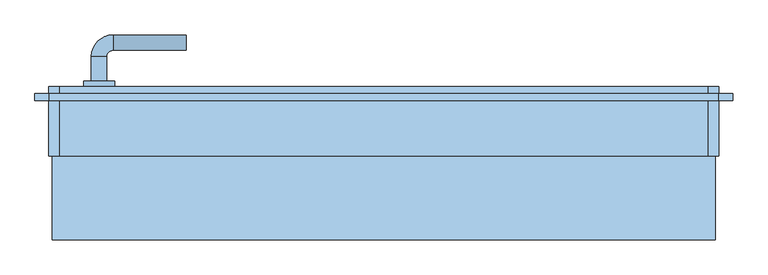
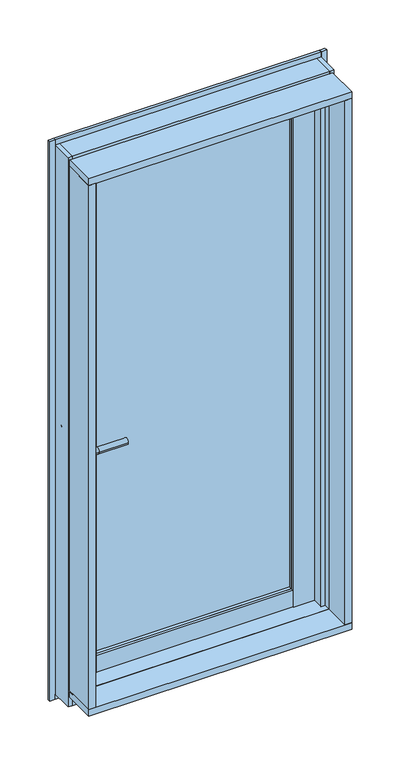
"""IFC4 building model written with IfcOpenShell, lengths in millimetres: window geometry, FNSⅡ100R_個別防火_面付枠_単窓 : 片開き框ドア."""

import ifcopenshell
import ifcopenshell.guid

model = None  # the IFC model being written
_history = None  # IfcOwnerHistory: only IFC2X3 demands one
_inside = {}  # id of a spatial element -> (the spatial element, [elements in it])
_under = {}  # id of a project, library or spatial element -> (it, [spatial elements below it])
_declared = {}  # id of a project -> (the project, [libraries it declares])
_typed = {}  # id of a type object -> (the type object, [elements of that type])
_made_of = {}  # id of a material, layer set ... -> (it, [elements and type objects made of it])


def new_model(schema):
    """Start an empty IFC model of exactly this schema.

    Asked for "IFC4X3", IfcOpenShell would pick the latest addendum, in which some entities
    have other attributes; the version numbers below select the first issue.
    IFC2X3 requires an IfcOwnerHistory on every rooted entity: one is made here for all.
    """
    global model, _history
    if schema == "IFC4X3":
        model = ifcopenshell.file(schema_version=(4, 3, 0, 0))
    else:
        model = ifcopenshell.file(schema=schema)
    _inside.clear()
    _under.clear()
    _declared.clear()
    _typed.clear()
    _made_of.clear()
    _history = None
    if model.schema == "IFC2X3":
        org = make("IfcOrganization", Name="unknown")
        user = make(
            "IfcPersonAndOrganization",
            ThePerson=make("IfcPerson", FamilyName="unknown"),
            TheOrganization=org,
        )
        app = make(
            "IfcApplication",
            ApplicationDeveloper=org,
            Version="unknown",
            ApplicationFullName="unknown",
            ApplicationIdentifier="unknown",
        )
        _history = make(
            "IfcOwnerHistory",
            OwningUser=user,
            OwningApplication=app,
            ChangeAction="ADDED",
            CreationDate=0,
        )
    return model


def make(cls, **values):
    """One entity of the class cls with the attributes given. An attribute that is None is left unset."""
    return model.create_entity(
        cls, **{name: value for name, value in values.items() if value is not None}
    )


def rooted(cls, **values):
    """An entity with a GlobalId (a new one), such as an element, a storey or a relation."""
    return make(cls, GlobalId=ifcopenshell.guid.new(), OwnerHistory=_history, **values)


def si_unit(unit_type, name, prefix=None):
    """IfcSIUnit, for example si_unit("LENGTHUNIT", "METRE", prefix="MILLI")."""
    return make("IfcSIUnit", UnitType=unit_type, Prefix=prefix, Name=name)


def assignment(units):
    """IfcUnitAssignment: the units of a project."""
    return None if units is None else make("IfcUnitAssignment", Units=units)


def point(xyz):
    """IfcCartesianPoint."""
    return None if xyz is None else make("IfcCartesianPoint", Coordinates=xyz)


def direction(xyz):
    """IfcDirection."""
    return None if xyz is None else make("IfcDirection", DirectionRatios=xyz)


def frame(location, z_axis=None, x_axis=None):
    """IfcAxis2Placement3D, a coordinate frame: its origin and axes. An axis left out is left unset."""
    return make(
        "IfcAxis2Placement3D",
        Location=point(location),
        Axis=direction(z_axis),
        RefDirection=direction(x_axis),
    )


def frame_2d(location, x_axis=None):
    """IfcAxis2Placement2D, a coordinate frame in the plane: its origin and x axis."""
    return make(
        "IfcAxis2Placement2D", Location=point(location), RefDirection=direction(x_axis)
    )


def origin():
    """The frame at (0, 0, 0) with its axes left unset."""
    return frame((0.0, 0.0, 0.0))


def place(relative_to, where):
    """IfcLocalPlacement: puts the frame where relative to a parent placement (None: the world)."""
    return make(
        "IfcLocalPlacement", PlacementRelTo=relative_to, RelativePlacement=where
    )


def context(
    kind, dimensions, precision=None, world=None, true_north=None, identifier=None
):
    """IfcGeometricRepresentationContext, for example the 3D "Model" context."""
    return make(
        "IfcGeometricRepresentationContext",
        ContextIdentifier=identifier,
        ContextType=kind,
        CoordinateSpaceDimension=dimensions,
        Precision=precision,
        WorldCoordinateSystem=world,
        TrueNorth=true_north,
    )


def project(units=None, contexts=None):
    """IfcProject with its units and contexts."""
    return rooted(
        "IfcProject",
        Name="project",
        RepresentationContexts=contexts,
        UnitsInContext=assignment(units),
    )


def spatial(cls, under=None, at=None, **own):
    """A site, building, storey or space (cls), placed at a placement, below another one or the project."""
    s = rooted(cls, ObjectPlacement=at, **own)
    if under is not None:
        _under.setdefault(under.id(), (under, []))[1].append(s)
    return s


def polyline(points):
    """IfcPolyline through the points."""
    return make("IfcPolyline", Points=[point(p) for p in points])


def circle_curve(where, radius):
    """IfcCircle in the frame where."""
    return make("IfcCircle", Position=where, Radius=radius)


def ellipse_curve(where, semi_axis1, semi_axis2):
    """IfcEllipse in the frame where."""
    return make(
        "IfcEllipse", Position=where, SemiAxis1=semi_axis1, SemiAxis2=semi_axis2
    )


def trimmed(basis, trim1, trim2, sense, master):
    """IfcTrimmedCurve: the piece of a basis curve between two trims."""
    return make(
        "IfcTrimmedCurve",
        BasisCurve=basis,
        Trim1=trim1,
        Trim2=trim2,
        SenseAgreement=sense,
        MasterRepresentation=master,
    )


def segment(curve, same_sense, transition):
    """IfcCompositeCurveSegment."""
    return make(
        "IfcCompositeCurveSegment",
        Transition=transition,
        SameSense=same_sense,
        ParentCurve=curve,
    )


def composite_curve(segments, self_intersect=None):
    """IfcCompositeCurve: segments joined end to end."""
    return make("IfcCompositeCurve", Segments=segments, SelfIntersect=self_intersect)


def outline(outer, holes=None, kind="AREA"):
    """IfcArbitraryClosedProfileDef: a profile drawn as a closed curve; with holes, ...WithVoids."""
    if holes is None:
        return make("IfcArbitraryClosedProfileDef", ProfileType=kind, OuterCurve=outer)
    return make(
        "IfcArbitraryProfileDefWithVoids",
        ProfileType=kind,
        OuterCurve=outer,
        InnerCurves=holes,
    )


def extrude(swept, where, along, depth):
    """IfcExtrudedAreaSolid: the profile swept, set in the frame where, extruded along a direction by depth."""
    return make(
        "IfcExtrudedAreaSolid",
        SweptArea=swept,
        Position=where,
        ExtrudedDirection=direction(along),
        Depth=depth,
    )


def faces_of(points, faces, orient=None, outer=None):
    """IfcFace entities. A face is a list of loops; a loop is a list of indices into points, from 0.

    orient and outer hold one flag for each loop. By default every Orientation is true, the
    first loop of a face is its IfcFaceOuterBound and the others are IfcFaceBound.
    """
    made = []
    for i, loops in enumerate(faces):
        bounds = []
        for j, loop in enumerate(loops):
            is_outer = j == 0 if outer is None else outer[i][j]
            bounds.append(
                make(
                    "IfcFaceOuterBound" if is_outer else "IfcFaceBound",
                    Bound=make("IfcPolyLoop", Polygon=[points[k] for k in loop]),
                    Orientation=True if orient is None else orient[i][j],
                )
            )
        made.append(make("IfcFace", Bounds=bounds))
    return made


def faceted_brep(points, faces, orient=None, outer=None, voids=None):
    """IfcFacetedBrep: a solid bounded by flat faces; with voids (closed shells), ...WithVoids."""
    shared = [point(p) for p in points]
    hull = make("IfcClosedShell", CfsFaces=faces_of(shared, faces, orient, outer))
    if voids is None:
        return make("IfcFacetedBrep", Outer=hull)
    return make(
        "IfcFacetedBrepWithVoids",
        Outer=hull,
        Voids=[
            make(cls, CfsFaces=faces_of(shared, fs, o, b)) for cls, fs, o, b in voids
        ],
    )


def shape(context_of_items, identifier, shape_type, items):
    """IfcShapeRepresentation: the items that make up one representation, for example the "Body"."""
    return make(
        "IfcShapeRepresentation",
        ContextOfItems=context_of_items,
        RepresentationIdentifier=identifier,
        RepresentationType=shape_type,
        Items=items,
    )


def source(mapping_origin, context_of_items, identifier, shape_type, items):
    """IfcRepresentationMap: a shape defined once, which mapped items show again and again."""
    return make(
        "IfcRepresentationMap",
        MappingOrigin=mapping_origin,
        MappedRepresentation=shape(context_of_items, identifier, shape_type, items),
    )


def transform(
    local_origin,
    x_axis=None,
    y_axis=None,
    z_axis=None,
    scale=None,
    scale2=None,
    scale3=None,
    uniform=True,
):
    """IfcCartesianTransformationOperator3D, or its non-uniform kind. x_axis, y_axis, z_axis: its Axis1, 2, 3."""
    if uniform:
        return make(
            "IfcCartesianTransformationOperator3D",
            Axis1=direction(x_axis),
            Axis2=direction(y_axis),
            LocalOrigin=point(local_origin),
            Scale=scale,
            Axis3=direction(z_axis),
        )
    return make(
        "IfcCartesianTransformationOperator3DnonUniform",
        Axis1=direction(x_axis),
        Axis2=direction(y_axis),
        LocalOrigin=point(local_origin),
        Scale=scale,
        Axis3=direction(z_axis),
        Scale2=scale2,
        Scale3=scale3,
    )


def mapped(mapping_source, mapping_target):
    """IfcMappedItem: shows the shape of a source again, moved by a transform."""
    return make(
        "IfcMappedItem", MappingSource=mapping_source, MappingTarget=mapping_target
    )


def made_of(thing, what):
    """Note that an element or type object is made of a material, layer set ...; save() writes the relation."""
    if what is not None:
        _made_of.setdefault(what.id(), (what, []))[1].append(thing)
    return thing


def element(
    cls,
    number,
    at=None,
    inside=None,
    cuts=None,
    type_object=None,
    material=None,
    context=None,
    identifier="Body",
    shape_type=None,
    held_by="IfcProductDefinitionShape",
    body=None,
    shapes=None,
    **own,
):
    """One element of the class cls, such as IfcWall. Its Tag is "e" and its number.

    at: its placement. inside: the storey or other place that contains it. cuts: it is an
    opening in that element (IfcRelVoidsElement). A single representation is given by context,
    identifier, shape_type and body (its items); several are given by shapes. held_by: the class
    of the entity that holds the representations. save() writes the other relations.
    """
    e = rooted(cls, Tag="e%d" % number, ObjectPlacement=at, **own)
    if body is not None:
        shapes = [shape(context, identifier, shape_type, body)]
    if shapes is not None:
        e.Representation = make(held_by, Representations=shapes)
    if inside is not None:
        _inside.setdefault(inside.id(), (inside, []))[1].append(e)
    if cuts is not None:
        rooted(
            "IfcRelVoidsElement", RelatingBuildingElement=cuts, RelatedOpeningElement=e
        )
    if type_object is not None:
        _typed.setdefault(type_object.id(), (type_object, []))[1].append(e)
    return made_of(e, material)


def aggregate(whole, parts):
    """IfcRelAggregates: a whole, such as a stair, and the parts it consists of."""
    return rooted("IfcRelAggregates", RelatingObject=whole, RelatedObjects=parts)


def save(model, path):
    """Write the relations noted so far, then the file.

    IfcRelAggregates (storeys below a building ...), IfcRelContainedInSpatialStructure (elements
    in a storey), IfcRelDefinesByType, IfcRelAssociatesMaterial and IfcRelDeclares: one each for
    every whole, place, type object, material and project.
    """
    for whole, parts in _under.values():
        aggregate(whole, parts)
    for where, things in _inside.values():
        rooted(
            "IfcRelContainedInSpatialStructure",
            RelatedElements=things,
            RelatingStructure=where,
        )
    for kind, things in _typed.values():
        rooted("IfcRelDefinesByType", RelatedObjects=things, RelatingType=kind)
    for what, things in _made_of.values():
        rooted("IfcRelAssociatesMaterial", RelatedObjects=things, RelatingMaterial=what)
    for by, libraries in _declared.values():
        rooted("IfcRelDeclares", RelatingContext=by, RelatedDefinitions=libraries)
    model.write(path)


def plane_surface(at):
    """IfcPlane: the flat surface through the origin of the frame at, square to its z axis."""
    return make("IfcPlane", Position=at)


def cylinder_surface(at, radius):
    """IfcCylindricalSurface: all points at the distance radius from the z axis of the frame at."""
    return make("IfcCylindricalSurface", Position=at, Radius=radius)


def revolved_surface(curve, axis_point, axis_direction):
    """IfcSurfaceOfRevolution: the curve turned about the line through axis_point along axis_direction."""
    return make(
        "IfcSurfaceOfRevolution",
        SweptCurve=make("IfcArbitraryOpenProfileDef", ProfileType="CURVE", Curve=curve),
        AxisPosition=make("IfcAxis1Placement", Location=point(axis_point), Axis=direction(axis_direction)),
    )


def advanced_brep(points, edges, surfaces, faces):
    """IfcAdvancedBrep: a solid bounded by faces that lie on surfaces and meet in shared edges.

    An edge is (start, end): straight between two places in points (the first is 0);
    or (start, end, curve); or (start, end, curve, False) where it runs against its curve.
    A face is (place in surfaces, loops), or (place, loops, False) where it looks against
    its surface's normal. A loop lists edges by number (the first is 1), with a minus sign
    where the edge is run from its end to its start. The first loop is the outer one.
    """
    corners = [point(p) for p in points]
    vertices = [make("IfcVertexPoint", VertexGeometry=c) for c in corners]
    made = []
    for start, end, *more in edges:
        made.append(
            make(
                "IfcEdgeCurve",
                EdgeStart=vertices[start],
                EdgeEnd=vertices[end],
                EdgeGeometry=more[0] if more else make("IfcPolyline", Points=[corners[start], corners[end]]),
                SameSense=more[1] if len(more) > 1 else True,
            )
        )
    hull = []
    for where, loops, *sense in faces:
        bounds = []
        for j, loop in enumerate(loops):
            ring = [make("IfcOrientedEdge", EdgeElement=made[abs(k) - 1], Orientation=k > 0) for k in loop]
            bounds.append(
                make(
                    "IfcFaceOuterBound" if j == 0 else "IfcFaceBound",
                    Bound=make("IfcEdgeLoop", EdgeList=ring),
                    Orientation=True,
                )
            )
        hull.append(make("IfcAdvancedFace", Bounds=bounds, FaceSurface=surfaces[where], SameSense=sense[0] if sense else True))
    return make("IfcAdvancedBrep", Outer=make("IfcClosedShell", CfsFaces=hull))


def window_eaa06fa6(model_context):
    return source(origin(), model_context, "Body", "SolidModel", [
        extrude(outline(composite_curve([segment(trimmed(circle_curve(frame_2d((269.0, 25.3)), 16.1), [point((285.1, 25.3))], [point((252.9, 25.3))], False, "CARTESIAN"), True, "CONTINUOUS"), segment(trimmed(circle_curve(frame_2d((269.0, 25.3)), 16.1), [point((252.9, 25.3))], [point((285.1, 25.3))], False, "CARTESIAN"), True, "CONTINUOUS")], self_intersect=False)), frame((0.0, 0.0, 2807.0), z_axis=(0.0, 0.0, 1.0), x_axis=(1.0, 0.0, 0.0)), (0.0, 0.0, 1.0), 8.0),
        extrude(outline(polyline([(350.0, 50.8), (350.0, 5.8), (120.0, 5.8), (120.0, 50.8), (350.0, 50.8)])), frame((0.0, 0.0, 2815.0), z_axis=(0.0, 0.0, 1.0), x_axis=(1.0, 0.0, 0.0)), (0.0, 0.0, 1.0), 51.0),
        advanced_brep(
        [(-397.0, 110.0, 1800.0), (-419.0, 110.0, 1800.0), (-419.0, 153.0, 1800.0), (-397.0, 153.0, 1800.0), (-388.0, 162.0, 1800.0), (-388.0, 184.0, 1800.0), (-283.0, 162.0, 1800.0), (-283.0, 184.0, 1800.0)],
        [
            (0, 1, circle_curve(frame((-408.0, 110.0, 1800.0), z_axis=(0.0, 1.0, 0.0), x_axis=(-1.0, 0.0, 0.0)), 11.0)),
            (1, 2),
            (2, 3, circle_curve(frame((-408.0, 153.0, 1800.0), z_axis=(0.0, -1.0, 0.0), x_axis=(-1.0, 0.0, 0.0)), 11.0)),
            (3, 0),
            (1, 0, circle_curve(frame((-408.0, 110.0, 1800.0), z_axis=(0.0, 1.0, 0.0), x_axis=(-1.0, 0.0, 0.0)), 11.0)),
            (3, 2, circle_curve(frame((-408.0, 153.0, 1800.0), z_axis=(0.0, -1.0, 0.0), x_axis=(-1.0, 0.0, 0.0)), 11.0)),
            (4, 3, circle_curve(frame((-388.0, 153.0, 1800.0), z_axis=(0.0, 0.0, 1.0), x_axis=(-1.0, 0.0, 0.0)), 9.0)),
            (2, 5, circle_curve(frame((-388.0, 153.0, 1800.0), z_axis=(0.0, 0.0, -1.0), x_axis=(-1.0, 0.0, 0.0)), 31.0)),
            (5, 4, circle_curve(frame((-388.0, 173.0, 1800.0), z_axis=(-1.0, 0.0, 0.0), x_axis=(0.0, 1.0, 0.0)), 11.0)),
            (4, 5, circle_curve(frame((-388.0, 173.0, 1800.0), z_axis=(-1.0, 0.0, 0.0), x_axis=(0.0, 1.0, 0.0)), 11.0)),
            (6, 7, circle_curve(frame((-283.0, 173.0, 1800.0), z_axis=(1.0, 0.0, 0.0), x_axis=(0.0, 1.0, 0.0)), 11.0)),
            (7, 6, circle_curve(frame((-283.0, 173.0, 1800.0), z_axis=(1.0, 0.0, 0.0), x_axis=(0.0, 1.0, 0.0)), 11.0)),
            (5, 7),
            (6, 4),
        ],
        [
            cylinder_surface(frame((-408.0, 110.0, 1800.0), z_axis=(0.0, -1.0, 0.0), x_axis=(-1.0, 0.0, 0.0)), 11.0),
            revolved_surface(trimmed(ellipse_curve(frame((-408.0, 153.0, 1800.0), z_axis=(0.0, -1.0, 0.0), x_axis=(-1.0, 0.0, 0.0)), 11.0, 11.0), [point((-419.0, 153.0, 1800.0))], [point((-397.0, 153.0, 1800.0))], True, "CARTESIAN"), (-388.0, 153.0, 1800.0), (0.0, 0.0, -1.0)),
            plane_surface(frame((-408.0, 110.0, 1800.0), z_axis=(0.0, -1.0, 0.0), x_axis=(0.0, 0.0, 1.0))),
            revolved_surface(trimmed(ellipse_curve(frame((-408.0, 153.0, 1800.0), z_axis=(0.0, -1.0, 0.0), x_axis=(-1.0, 0.0, 0.0)), 11.0, 11.0), [point((-397.0, 153.0, 1800.0))], [point((-419.0, 153.0, 1800.0))], True, "CARTESIAN"), (-388.0, 153.0, 1800.0), (0.0, 0.0, -1.0)),
            plane_surface(frame((-283.0, 173.0, 1800.0), z_axis=(1.0, 0.0, 0.0), x_axis=(0.0, 0.0, 1.0))),
            cylinder_surface(frame((-388.0, 173.0, 1800.0), z_axis=(-1.0, 0.0, 0.0), x_axis=(0.0, 1.0, 0.0)), 11.0),
        ],
        [
            (0, [[1, 2, 3, 4]]),
            (0, [[5, -4, 6, -2]]),
            (1, [[7, -3, 8, 9]]),
            (2, [[-5, -1]]),
            (3, [[-8, -6, -7, 10]]),
            (4, [[11, 12]]),
            (5, [[-9, 13, -11, 14]]),
            (5, [[-10, -14, -12, -13]]),
        ],
    ),
        extrude(outline(composite_curve([segment(trimmed(circle_curve(frame_2d((1800.0, -408.0)), 22.0), [point((1800.0, -430.0))], [point((1800.0, -386.0))], False, "CARTESIAN"), True, "CONTINUOUS"), segment(trimmed(circle_curve(frame_2d((1800.0, -408.0)), 22.0), [point((1800.0, -386.0))], [point((1800.0, -430.0))], False, "CARTESIAN"), True, "CONTINUOUS")], self_intersect=False)), frame((0.0, 110.0, 0.0), z_axis=(0.0, 1.0, 0.0), x_axis=(0.0, 0.0, 1.0)), (0.0, 0.0, 1.0), 8.0),
        extrude(outline(composite_curve([segment(trimmed(circle_curve(frame_2d((1800.0, -408.0)), 22.0), [point((1800.0, -386.0))], [point((1800.0, -430.0))], False, "CARTESIAN"), True, "CONTINUOUS"), segment(trimmed(circle_curve(frame_2d((1800.0, -408.0)), 22.0), [point((1800.0, -430.0))], [point((1800.0, -386.0))], False, "CARTESIAN"), True, "CONTINUOUS")], self_intersect=False)), frame((0.0, 41.0, 0.0), z_axis=(0.0, 1.0, 0.0), x_axis=(0.0, 0.0, 1.0)), (0.0, 0.0, 1.0), 8.0),
        advanced_brep(
        [(-419.0, 49.0, 1800.0), (-397.0, 49.0, 1800.0), (-419.0, 6.0, 1800.0), (-397.0, 6.0, 1800.0), (-388.0, -3.0, 1800.0), (-388.0, -25.0, 1800.0), (-283.0, -25.0, 1800.0), (-283.0, -3.0, 1800.0)],
        [
            (0, 1, circle_curve(frame((-408.0, 49.0, 1800.0), z_axis=(0.0, 1.0, 0.0), x_axis=(1.0, 0.0, 0.0)), 11.0)),
            (1, 0, circle_curve(frame((-408.0, 49.0, 1800.0), z_axis=(0.0, 1.0, 0.0), x_axis=(1.0, 0.0, 0.0)), 11.0)),
            (0, 2),
            (2, 3, circle_curve(frame((-408.0, 6.0, 1800.0), z_axis=(0.0, 1.0, 0.0), x_axis=(1.0, 0.0, 0.0)), 11.0)),
            (3, 1),
            (3, 2, circle_curve(frame((-408.0, 6.0, 1800.0), z_axis=(0.0, 1.0, 0.0), x_axis=(1.0, 0.0, 0.0)), 11.0)),
            (4, 3, circle_curve(frame((-388.0, 6.0, 1800.0), z_axis=(0.0, 0.0, -1.0), x_axis=(-1.0, 0.0, 0.0)), 9.0)),
            (2, 5, circle_curve(frame((-388.0, 6.0, 1800.0), z_axis=(0.0, 0.0, 1.0), x_axis=(-1.0, 0.0, 0.0)), 31.0)),
            (5, 4, circle_curve(frame((-388.0, -14.0, 1800.0), z_axis=(-1.0, 0.0, 0.0), x_axis=(0.0, 1.0, 0.0)), 11.0)),
            (4, 5, circle_curve(frame((-388.0, -14.0, 1800.0), z_axis=(-1.0, 0.0, 0.0), x_axis=(0.0, 1.0, 0.0)), 11.0)),
            (6, 7, circle_curve(frame((-283.0, -14.0, 1800.0), z_axis=(1.0, 0.0, 0.0), x_axis=(0.0, 1.0, 0.0)), 11.0)),
            (7, 6, circle_curve(frame((-283.0, -14.0, 1800.0), z_axis=(1.0, 0.0, 0.0), x_axis=(0.0, 1.0, 0.0)), 11.0)),
            (5, 6),
            (7, 4),
        ],
        [
            plane_surface(frame((-408.0, 49.0, 1800.0), z_axis=(0.0, 1.0, 0.0), x_axis=(0.0, 0.0, 1.0))),
            cylinder_surface(frame((-408.0, 49.0, 1800.0), z_axis=(0.0, 1.0, 0.0), x_axis=(1.0, 0.0, 0.0)), 11.0),
            revolved_surface(trimmed(ellipse_curve(frame((-408.0, 6.0, 1800.0), z_axis=(0.0, 1.0, 0.0), x_axis=(1.0, 0.0, 0.0)), 11.0, 11.0), [point((-419.0, 6.0, 1800.0))], [point((-397.0, 6.0, 1800.0))], True, "CARTESIAN"), (-388.0, 6.0, 1800.0), (0.0, 0.0, 1.0)),
            revolved_surface(trimmed(ellipse_curve(frame((-408.0, 6.0, 1800.0), z_axis=(0.0, 1.0, 0.0), x_axis=(1.0, 0.0, 0.0)), 11.0, 11.0), [point((-397.0, 6.0, 1800.0))], [point((-419.0, 6.0, 1800.0))], True, "CARTESIAN"), (-388.0, 6.0, 1800.0), (0.0, 0.0, 1.0)),
            plane_surface(frame((-283.0, -14.0, 1800.0), z_axis=(1.0, 0.0, 0.0), x_axis=(0.0, 0.0, 1.0))),
            cylinder_surface(frame((-388.0, -14.0, 1800.0), z_axis=(-1.0, 0.0, 0.0), x_axis=(0.0, 1.0, 0.0)), 11.0),
        ],
        [
            (0, [[1, 2]]),
            (1, [[-1, 3, 4, 5]]),
            (1, [[-2, -5, 6, -3]]),
            (2, [[7, -4, 8, 9]]),
            (3, [[-8, -6, -7, 10]]),
            (4, [[11, 12]]),
            (5, [[-9, 13, -12, 14]]),
            (5, [[-10, -14, -11, -13]]),
        ],
    ),
        extrude(outline(polyline([(-356.0, 80.0), (356.0, 80.0), (356.0, 74.0), (-356.0, 74.0), (-356.0, 80.0)])), frame((0.0, 0.0, 967.0), z_axis=(0.0, 0.0, 1.0), x_axis=(1.0, 0.0, 0.0)), (0.0, 0.0, 1.0), 1822.0),
        extrude(outline(polyline([(-356.0, 98.0), (356.0, 98.0), (356.0, 92.0), (-356.0, 92.0), (-356.0, 98.0)])), frame((0.0, 0.0, 967.0), z_axis=(0.0, 0.0, 1.0), x_axis=(1.0, 0.0, 0.0)), (0.0, 0.0, 1.0), 1822.0),
        extrude(outline(polyline([(-356.0, 49.0), (-431.0, 49.0), (-431.0, 61.0), (-356.0, 61.0), (-356.0, 49.0)])), frame((0.0, 0.0, 904.0), z_axis=(0.0, 0.0, 1.0), x_axis=(1.0, 0.0, 0.0)), (0.0, 0.0, 1.0), 1973.0),
        extrude(outline(polyline([(356.0, 49.0), (356.0, 61.0), (431.0, 61.0), (431.0, 49.0), (356.0, 49.0)])), frame((0.0, 0.0, 904.0), z_axis=(0.0, 0.0, 1.0), x_axis=(1.0, 0.0, 0.0)), (0.0, 0.0, 1.0), 1973.0),
        extrude(outline(polyline([(446.0, 110.0), (446.0, 61.0), (356.0, 61.0), (356.0, 110.0), (446.0, 110.0)])), frame((0.0, 0.0, 862.0), z_axis=(0.0, 0.0, 1.0), x_axis=(1.0, 0.0, 0.0)), (0.0, 0.0, 1.0), 2032.0),
        extrude(outline(polyline([(-446.0, 110.0), (-356.0, 110.0), (-356.0, 61.0), (-446.0, 61.0), (-446.0, 110.0)])), frame((0.0, 0.0, 862.0), z_axis=(0.0, 0.0, 1.0), x_axis=(1.0, 0.0, 0.0)), (0.0, 0.0, 1.0), 2032.0),
        extrude(outline(polyline([(356.0, 61.0), (356.0, 50.8), (-356.0, 50.8), (-356.0, 61.0), (356.0, 61.0)])), frame((0.0, 0.0, 904.0), z_axis=(0.0, 0.0, 1.0), x_axis=(1.0, 0.0, 0.0)), (0.0, 0.0, 1.0), 63.0),
        extrude(outline(polyline([(356.0, 110.0), (356.0, 61.0), (-356.0, 61.0), (-356.0, 110.0), (356.0, 110.0)])), frame((0.0, 0.0, 862.0), z_axis=(0.0, 0.0, 1.0), x_axis=(1.0, 0.0, 0.0)), (0.0, 0.0, 1.0), 105.0),
        extrude(outline(polyline([(356.0, 61.0), (356.0, 50.8), (-356.0, 50.8), (-356.0, 61.0), (356.0, 61.0)])), frame((0.0, 0.0, 2789.0), z_axis=(0.0, 0.0, 1.0), x_axis=(1.0, 0.0, 0.0)), (0.0, 0.0, 1.0), 88.0),
        extrude(outline(polyline([(356.0, 110.0), (356.0, 61.0), (-356.0, 61.0), (-356.0, 110.0), (356.0, 110.0)])), frame((0.0, 0.0, 2789.0), z_axis=(0.0, 0.0, 1.0), x_axis=(1.0, 0.0, 0.0)), (0.0, 0.0, 1.0), 105.0),
        faceted_brep([(-480.0, 110.0, 2935.0), (-465.0, 110.0, 2935.0), (-465.0, 110.0, 2900.0), (-450.0, 110.0, 2900.0), (-450.0, 110.0, 850.0), (-465.0, 110.0, 850.0), (-465.0, 110.0, 840.0), (-480.0, 110.0, 840.0), (-465.0, 53.0, 2900.0), (-436.3, 53.0, 2900.0), (-436.3, 58.0, 2900.0), (-450.0, 58.0, 2900.0), (-465.0, 53.0, 850.0), (-436.3, 53.0, 850.0), (-480.0, 10.0, 2935.0), (-465.0, 10.0, 2935.0), (-465.0, 10.0, 840.0), (-480.0, 10.0, 840.0), (-450.0, 58.0, 850.0), (-436.3, 58.0, 850.0)], [[[0, 1, 2, 3, 4, 5, 6, 7]], [[3, 2, 8, 9, 10, 11]], [[9, 8, 12, 13]], [[0, 14, 15, 1]], [[7, 6, 16, 17]], [[14, 0, 7, 17]], [[15, 14, 17, 16]], [[1, 15, 16, 6, 5, 12, 8, 2]], [[4, 18, 19, 13, 12, 5]], [[3, 11, 18, 4]], [[10, 9, 13, 19]], [[11, 10, 19, 18]]]),
        faceted_brep([(450.0, 110.0, 2900.0), (450.0, 58.0, 2900.0), (436.3, 58.0, 2900.0), (436.3, 53.0, 2900.0), (465.0, 53.0, 2900.0), (465.0, 110.0, 2900.0), (480.0, 110.0, 2935.0), (480.0, 10.0, 2935.0), (480.0, 10.0, 840.0), (480.0, 110.0, 840.0), (465.0, 110.0, 2935.0), (465.0, 110.0, 840.0), (465.0, 110.0, 850.0), (450.0, 110.0, 850.0), (465.0, 10.0, 2935.0), (465.0, 53.0, 850.0), (465.0, 10.0, 840.0), (436.3, 53.0, 850.0), (436.3, 58.0, 850.0), (450.0, 58.0, 850.0)], [[[0, 1, 2, 3, 4, 5]], [[6, 7, 8, 9]], [[10, 6, 9, 11, 12, 13, 0, 5]], [[14, 10, 5, 4, 15, 12, 11, 16]], [[14, 7, 6, 10]], [[16, 11, 9, 8]], [[13, 12, 15, 17, 18, 19]], [[7, 14, 16, 8]], [[1, 0, 13, 19]], [[2, 1, 19, 18]], [[3, 2, 18, 17]], [[4, 3, 17, 15]]]),
        extrude(outline(polyline([(-465.0, 10.0), (-465.0, 53.0), (-435.0, 53.0), (-435.0, 12.5), (-450.0, 12.5), (-450.0, -10.0), (-453.0, -10.0), (-453.0, 10.0), (-465.0, 10.0)])), frame((0.0, 0.0, 900.0), z_axis=(0.0, 0.0, 1.0), x_axis=(1.0, 0.0, 0.0)), (0.0, 0.0, 1.0), 2003.0),
        extrude(outline(polyline([(465.0, 10.0), (453.0, 10.0), (453.0, -10.0), (450.0, -10.0), (450.0, 12.5), (435.0, 12.5), (435.0, 53.0), (465.0, 53.0), (465.0, 10.0)])), frame((0.0, 0.0, 900.0), z_axis=(0.0, 0.0, 1.0), x_axis=(1.0, 0.0, 0.0)), (0.0, 0.0, 1.0), 2003.0),
        extrude(outline(polyline([(10.0, 884.0), (10.0, 897.0), (-10.0, 897.0), (-10.0, 900.0), (57.0, 900.0), (57.0, 884.0), (10.0, 884.0)])), frame((-453.0, 0.0, 0.0), z_axis=(1.0, 0.0, 0.0), x_axis=(0.0, 1.0, 0.0)), (0.0, 0.0, 1.0), 906.0),
        extrude(outline(polyline([(110.0, 840.0), (10.0, 840.0), (10.0, 884.0), (57.0, 884.0), (57.0, 850.0), (110.0, 850.0), (110.0, 840.0)])), frame((-465.0, 0.0, 0.0), z_axis=(1.0, 0.0, 0.0), x_axis=(0.0, 1.0, 0.0)), (0.0, 0.0, 1.0), 930.0),
        extrude(outline(polyline([(52.7, 2884.0), (16.0, 2884.0), (16.0, 2900.0), (-10.0, 2900.0), (-10.0, 2903.0), (10.0, 2903.0), (10.0, 2914.5), (52.7, 2914.5), (52.7, 2884.0)])), frame((-450.0, 0.0, 0.0), z_axis=(1.0, 0.0, 0.0), x_axis=(0.0, 1.0, 0.0)), (0.0, 0.0, 1.0), 900.0),
        extrude(outline(polyline([(110.0, 2900.0), (58.0, 2900.0), (58.0, 2884.0), (52.7, 2884.0), (52.7, 2914.5), (10.0, 2914.5), (10.0, 2935.0), (110.0, 2935.0), (110.0, 2900.0)])), frame((-465.0, 0.0, 0.0), z_axis=(1.0, 0.0, 0.0), x_axis=(0.0, 1.0, 0.0)), (0.0, 0.0, 1.0), 930.0),
        extrude(outline(polyline([(-110.0, 900.0), (-10.0, 900.0), (-10.0, 897.0), (10.0, 897.0), (10.0, 875.0), (-110.0, 875.0), (-110.0, 900.0)])), frame((-475.0, 0.0, 0.0), z_axis=(1.0, 0.0, 0.0), x_axis=(0.0, 1.0, 0.0)), (0.0, 0.0, 1.0), 950.0),
        extrude(outline(polyline([(-480.0, 90.0), (-480.0, 100.0), (480.0, 100.0), (480.0, 90.0), (-480.0, 90.0)])), frame((0.0, 0.0, 820.0), z_axis=(0.0, 0.0, 1.0), x_axis=(1.0, 0.0, 0.0)), (0.0, 0.0, 1.0), 20.0),
        extrude(outline(polyline([(453.0, 10.0), (475.0, 10.0), (475.0, -110.0), (450.0, -110.0), (450.0, -10.0), (453.0, -10.0), (453.0, 10.0)])), frame((0.0, 0.0, 900.0), z_axis=(0.0, 0.0, 1.0), x_axis=(1.0, 0.0, 0.0)), (0.0, 0.0, 1.0), 2000.0),
        extrude(outline(polyline([(-453.0, 10.0), (-453.0, -10.0), (-450.0, -10.0), (-450.0, -110.0), (-475.0, -110.0), (-475.0, 10.0), (-453.0, 10.0)])), frame((0.0, 0.0, 900.0), z_axis=(0.0, 0.0, 1.0), x_axis=(1.0, 0.0, 0.0)), (0.0, 0.0, 1.0), 2000.0),
        extrude(outline(polyline([(-500.0, 90.0), (-500.0, 100.0), (-480.0, 100.0), (-480.0, 90.0), (-500.0, 90.0)])), frame((0.0, 0.0, 820.0), z_axis=(0.0, 0.0, 1.0), x_axis=(1.0, 0.0, 0.0)), (0.0, 0.0, 1.0), 2135.0),
        extrude(outline(polyline([(500.0, 90.0), (480.0, 90.0), (480.0, 100.0), (500.0, 100.0), (500.0, 90.0)])), frame((0.0, 0.0, 820.0), z_axis=(0.0, 0.0, 1.0), x_axis=(1.0, 0.0, 0.0)), (0.0, 0.0, 1.0), 2135.0),
        extrude(outline(polyline([(-110.0, 2925.0), (10.0, 2925.0), (10.0, 2903.0), (-10.0, 2903.0), (-10.0, 2900.0), (-110.0, 2900.0), (-110.0, 2925.0)])), frame((-475.0, 0.0, 0.0), z_axis=(1.0, 0.0, 0.0), x_axis=(0.0, 1.0, 0.0)), (0.0, 0.0, 1.0), 950.0),
        extrude(outline(polyline([(-480.0, 90.0), (-480.0, 100.0), (480.0, 100.0), (480.0, 90.0), (-480.0, 90.0)])), frame((0.0, 0.0, 2935.0), z_axis=(0.0, 0.0, 1.0), x_axis=(1.0, 0.0, 0.0)), (0.0, 0.0, 1.0), 20.0),
    ])


if __name__ == "__main__":
    model = new_model("IFC4")
    model_context = context("Model", 3, world=origin())
    ifc_project = project(units=[si_unit("LENGTHUNIT", "METRE", prefix="MILLI")], contexts=[model_context])
    site = spatial("IfcSite", under=ifc_project)
    building = spatial("IfcBuilding", under=site)
    placement = place(None, origin())
    window_shape = window_eaa06fa6(model_context)
    element("IfcWindow", 1, ObjectType="FNSⅡ100R_個別防火_面付枠_単窓 : 片開き框ドア", at=placement, inside=building, context=model_context, shape_type="MappedRepresentation", body=[
        mapped(window_shape, transform((0.0, 0.0, 0.0), x_axis=(1.0, 0.0, 0.0), y_axis=(0.0, 1.0, 0.0), z_axis=(0.0, 0.0, 1.0))),
    ])
    save(model, "model.ifc")
